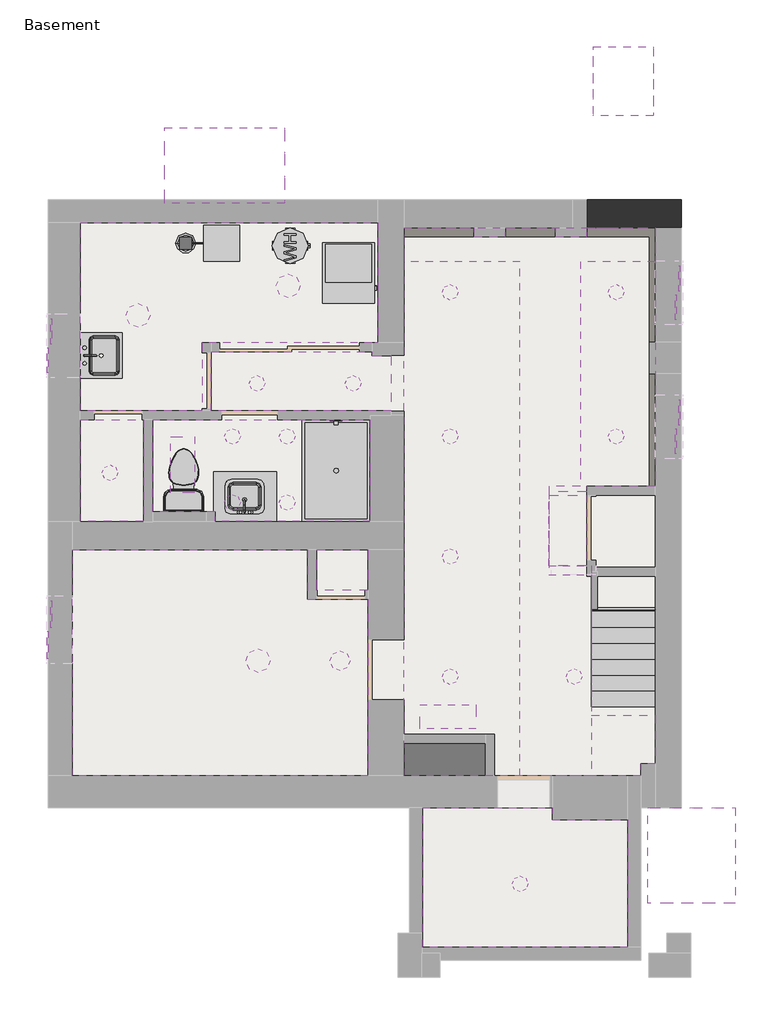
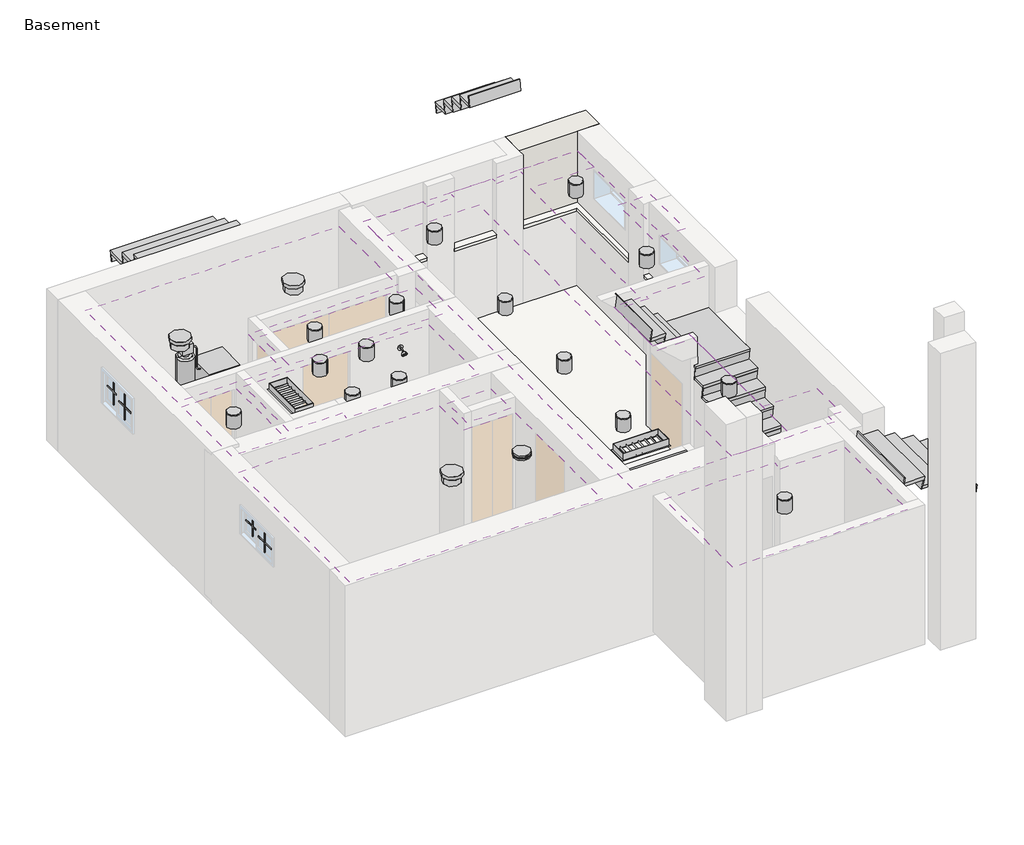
# One storey, part 2 of 2: 18 light fixtures, 16 proxies, 10 coverings, 5 flow terminals, 4 stair flights, 2 slabs, 1 wall.
"""IFC4 building model written with IfcOpenShell, lengths in millimetres."""

from ifc_helpers import new_model, si_unit, point, frame, frame_2d, origin, place, context, project, spatial, polyline, circle_curve, trimmed, segment, composite_curve, outline, extrude, faceted_brep, transform, mapped, element, save
from ifc_brep_helpers import plane_surface, revolved_surface, advanced_brep
from components import proxy_4_gpm_2e990802, air_vent_ceiling_access_hatch_parametric_14000_2x2_8_3648d0f2, fireplace_600mm_c69b326b, furnace_39496320, hot_water_heater_200_mbh_dcdfe45b, muntin_pattern_2x2_muntin_pattern_2x2_ebc4046f, muntin_pattern_2x2_muntin_pattern_2x2_335b0541, muntin_pattern_2x2_muntin_pattern_2x2_9e38aa54, smoke_detector_smoke_detector_2458_231b9623, flow_terminal_a9700879, bath_shower_basin_rectangular_bath_shower_basin_rectangular_31fc09b4, bath_basin_500_x_440mm_22030706, kitchen_single_sink_760_x_535mm_32917d62, toilet_toilet_5cb52bd4, toilet_toilet_183bbd19, light_fixture_03aafe97, light_fixture_643521e1, stair_flight_50mm_tread_25mm_nosing_13mm_riser_039d3c42, stair_flight_50mm_tread_25mm_nosing_13mm_riser_6dbba7f1, stair_flight_50mm_tread_25mm_nosing_13mm_riser_ce5ae0f6, stair_flight_50mm_tread_25mm_nosing_13mm_riser_e9a0f66c

model = new_model("IFC4")

# Units and contexts
model_context = context("Model", 3, world=origin())
ifc_project = project(units=[si_unit("LENGTHUNIT", "METRE", prefix="MILLI")], contexts=[model_context])

# Site, building, storey
site = spatial("IfcSite", under=ifc_project)
building = spatial("IfcBuilding", under=site)
storey = spatial("IfcBuildingStorey", under=building, Name="Basement", Elevation=-2336.8)

# Proxies
placement = place(None, origin())
proxy_4_gpm_shape = proxy_4_gpm_2e990802(model_context)
element("IfcBuildingElementProxy", 1, Name="Water Softener : 4 GPM", ObjectType="Water Softener : 4 GPM", at=placement, inside=storey, context=model_context, shape_type="MappedRepresentation", body=[
    mapped(proxy_4_gpm_shape, transform((-4310.3, 5837.9699783, -2336.8), x_axis=(1.0, 0.0, 0.0), y_axis=(0.0, 1.0, 0.0), z_axis=(0.0, 0.0, 1.0))),
])
air_vent_ceiling_access_hatch_parametric_14000_2x2_8_shape = air_vent_ceiling_access_hatch_parametric_14000_2x2_8_3648d0f2(model_context)
element("IfcBuildingElementProxy", 2, Name="Air Vent : Ceiling_Access_Hatch_Parametric_14000 2x2'8", ObjectType="Air Vent : Ceiling_Access_Hatch_Parametric_14000 2x2'8", at=placement, inside=storey, context=model_context, shape_type="MappedRepresentation", body=[
    mapped(air_vent_ceiling_access_hatch_parametric_14000_2x2_8_shape, transform((-4350.95, 3023.7141898, -2743.2), x_axis=(0.0, 1.0, 0.0), y_axis=(-1.0, 0.0, 0.0), z_axis=(0.0, 0.0, 1.0))),
])
element("IfcBuildingElementProxy", 3, Name="Air Vent : Ceiling_Access_Hatch_Parametric_14000 2x2'8", ObjectType="Air Vent : Ceiling_Access_Hatch_Parametric_14000 2x2'8", at=placement, inside=storey, context=model_context, shape_type="MappedRepresentation", body=[
    mapped(air_vent_ceiling_access_hatch_parametric_14000_2x2_8_shape, transform((-983.8231221, -171.45, -2743.2), x_axis=(1.0, 0.0, 0.0), y_axis=(0.0, 1.0, 0.0), z_axis=(0.0, 0.0, 1.0))),
])
element("IfcBuildingElementProxy", 4, Name="Countertop- Rectangle shape base : 1525 x 762mm", ObjectType="Countertop- Rectangle shape base : 1525 x 762mm", at=placement, inside=storey, context=model_context, shape_type="SolidModel", body=[
    extrude(outline(polyline([(-3957.25, 2286.0), (-3957.25, 2933.7), (-3157.15, 2933.7), (-3157.15, 2286.0), (-3957.25, 2286.0)]), holes=[composite_curve([segment(trimmed(circle_curve(frame_2d((-3402.45, 2753.6500001)), 88.8999999), [point((-3313.5500001, 2753.6500001))], [point((-3402.45, 2842.5499999))], True, "CARTESIAN"), True, "CONTINUOUS"), segment(polyline([(-3402.45, 2842.5499999), (-3729.1999329, 2842.5499999)]), True, "CONTINUOUS"), segment(trimmed(circle_curve(frame_2d((-3729.1999329, 2758.1999328)), 84.3500671), [point((-3729.1999329, 2842.5499999))], [point((-3813.55, 2758.1999328))], True, "CARTESIAN"), True, "CONTINUOUS"), segment(polyline([(-3813.55, 2758.1999328), (-3813.55, 2466.0499999)]), True, "CONTINUOUS"), segment(trimmed(circle_curve(frame_2d((-3750.05, 2466.0499999)), 63.5), [point((-3813.55, 2466.0499999))], [point((-3750.05, 2402.5499999))], True, "CARTESIAN"), True, "CONTINUOUS"), segment(polyline([(-3750.05, 2402.5499999), (-3377.0500001, 2402.5499999)]), True, "CONTINUOUS"), segment(trimmed(circle_curve(frame_2d((-3377.0500001, 2466.0499999)), 63.5), [point((-3377.0500001, 2402.5499999))], [point((-3313.5500001, 2466.0499999))], True, "CARTESIAN"), True, "CONTINUOUS"), segment(polyline([(-3313.5500001, 2466.0499999), (-3313.5500001, 2753.6500001)]), True, "CONTINUOUS")], self_intersect=False)]), frame((0.0, 0.0, -1460.5), z_axis=(0.0, 0.0, 1.0), x_axis=(1.0, 0.0, 0.0)), (0.0, 0.0, 1.0), 38.1),
    extrude(outline(polyline([(-3277.8, 2813.05), (-3277.8, 2406.65), (-3836.6, 2406.65), (-3836.6, 2813.05), (-3277.8, 2813.05)])), frame((0.0, 0.0, -2336.8), z_axis=(0.0, 0.0, 1.0), x_axis=(1.0, 0.0, 0.0)), (0.0, 0.0, 1.0), 101.6),
    advanced_brep(
    [(-3176.2, 2914.65, -2235.2), (-3176.2, 2305.05, -2235.2), (-3938.2, 2305.05, -2235.2), (-3938.2, 2914.65, -2235.2), (-3176.2, 2914.65, -1460.5), (-3938.2, 2914.65, -1460.5), (-3938.2, 2305.05, -1460.5), (-3176.2, 2305.05, -1460.5), (-3402.45, 2842.5499999, -1460.5), (-3313.5500001, 2753.6500001, -1460.5), (-3313.5500001, 2466.0499999, -1460.5), (-3377.0500001, 2402.5499999, -1460.5), (-3750.05, 2402.5499999, -1460.5), (-3813.55, 2466.0499999, -1460.5), (-3813.55, 2758.1999328, -1460.5), (-3729.1999329, 2842.5499999, -1460.5), (-3313.5500001, 2753.6500001, -1774.0619239), (-3402.45, 2842.5499999, -1774.0619239), (-3729.1999329, 2842.5499999, -1774.0619239), (-3813.55, 2758.1999328, -1774.0619239), (-3813.55, 2466.0499999, -1774.0619239), (-3750.05, 2402.5499999, -1774.0619239), (-3377.0500001, 2402.5499999, -1774.0619239), (-3313.5500001, 2466.0499999, -1774.0619239)],
    [
        (0, 1),
        (1, 2),
        (2, 3),
        (3, 0),
        (4, 5),
        (5, 6),
        (6, 7),
        (7, 4),
        (8, 9, circle_curve(frame((-3402.45, 2753.6500001, -1460.5), z_axis=(0.0, 0.0, -1.0), x_axis=(-1.0, 0.0, 0.0)), 88.8999999)),
        (9, 10),
        (10, 11, circle_curve(frame((-3377.0500001, 2466.0499999, -1460.5), z_axis=(0.0, 0.0, -1.0), x_axis=(-1.0, 0.0, 0.0)), 63.5)),
        (11, 12),
        (12, 13, circle_curve(frame((-3750.05, 2466.0499999, -1460.5), z_axis=(0.0, 0.0, -1.0), x_axis=(-1.0, 0.0, 0.0)), 63.5)),
        (13, 14),
        (14, 15, circle_curve(frame((-3729.1999329, 2758.1999328, -1460.5), z_axis=(0.0, 0.0, -1.0), x_axis=(-1.0, 0.0, 0.0)), 84.3500671)),
        (15, 8),
        (3, 5),
        (4, 0),
        (2, 6),
        (1, 7),
        (16, 17, circle_curve(frame((-3402.45, 2753.6500001, -1774.0619239), z_axis=(0.0, 0.0, 1.0), x_axis=(-1.0, 0.0, 0.0)), 88.8999999)),
        (17, 18),
        (18, 19, circle_curve(frame((-3729.1999329, 2758.1999328, -1774.0619239), z_axis=(0.0, 0.0, 1.0), x_axis=(-1.0, 0.0, 0.0)), 84.3500671)),
        (19, 20),
        (20, 21, circle_curve(frame((-3750.05, 2466.0499999, -1774.0619239), z_axis=(0.0, 0.0, 1.0), x_axis=(-1.0, 0.0, 0.0)), 63.5)),
        (21, 22),
        (22, 23, circle_curve(frame((-3377.0500001, 2466.0499999, -1774.0619239), z_axis=(0.0, 0.0, 1.0), x_axis=(-1.0, 0.0, 0.0)), 63.5)),
        (23, 16),
        (16, 9),
        (8, 17),
        (15, 18),
        (14, 19),
        (13, 20),
        (12, 21),
        (11, 22),
        (10, 23),
    ],
    [
        plane_surface(frame((-3938.2, 2914.65, -2235.2), z_axis=(0.0, 0.0, -1.0), x_axis=(1.0, 0.0, 0.0))),
        plane_surface(frame((-3938.2, 2914.65, -1460.5), z_axis=(0.0, 0.0, 1.0), x_axis=(-1.0, 0.0, 0.0))),
        plane_surface(frame((-3176.2, 2914.65, -1460.5), z_axis=(0.0, 1.0, 0.0), x_axis=(0.0, 0.0, -1.0))),
        plane_surface(frame((-3938.2, 2914.65, -1460.5), z_axis=(-1.0, 0.0, 0.0), x_axis=(0.0, 0.0, -1.0))),
        plane_surface(frame((-3938.2, 2305.05, -1460.5), z_axis=(0.0, -1.0, 0.0), x_axis=(0.0, 0.0, -1.0))),
        plane_surface(frame((-3176.2, 2305.05, -1460.5), z_axis=(1.0, 0.0, 0.0), x_axis=(0.0, 0.0, -1.0))),
        plane_surface(frame((-3491.3499999, 2753.6500001, -1774.0619239), z_axis=(0.0, 0.0, 1.0), x_axis=(0.0, 1.0, 0.0))),
        revolved_surface(polyline([(-3491.3499998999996, 2753.6500001, -1460.5), (-3491.3499998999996, 2753.6500001, -1774.0619239)]), (-3402.45, 2753.6500001, -1774.0619239), (0.0, 0.0, 1.0)),
        plane_surface(frame((-3402.45, 2842.5499999, -1371.6), z_axis=(0.0, -1.0, 0.0), x_axis=(0.0, 0.0, -1.0))),
        revolved_surface(polyline([(-3813.55, 2758.1999328, -1460.5), (-3813.55, 2758.1999328, -1774.0619239)]), (-3729.1999329, 2758.1999328, -1774.0619239), (0.0, 0.0, 1.0)),
        plane_surface(frame((-3813.55, 2758.1999328, -1371.6), z_axis=(1.0, 0.0, 0.0), x_axis=(0.0, 0.0, -1.0))),
        revolved_surface(polyline([(-3813.55, 2466.0499999, -1460.5), (-3813.55, 2466.0499999, -1774.0619239)]), (-3750.05, 2466.0499999, -1774.0619239), (0.0, 0.0, 1.0)),
        plane_surface(frame((-3750.05, 2402.5499999, -1371.6), z_axis=(0.0, 1.0, 0.0), x_axis=(0.0, 0.0, -1.0))),
        revolved_surface(polyline([(-3440.5500001, 2466.0499999, -1460.5), (-3440.5500001, 2466.0499999, -1774.0619239)]), (-3377.0500001, 2466.0499999, -1774.0619239), (0.0, 0.0, 1.0)),
        plane_surface(frame((-3313.5500001, 2466.0499999, -1371.6), z_axis=(-1.0, 0.0, 0.0), x_axis=(0.0, 0.0, -1.0))),
    ],
    [
        (0, [[1, 2, 3, 4]]),
        (1, [[5, 6, 7, 8], [9, 10, 11, 12, 13, 14, 15, 16]]),
        (2, [[-4, 17, -5, 18]]),
        (3, [[-3, 19, -6, -17]]),
        (4, [[-2, 20, -7, -19]]),
        (5, [[-1, -18, -8, -20]]),
        (6, [[21, 22, 23, 24, 25, 26, 27, 28]]),
        (7, [[-21, 29, -9, 30]]),
        (8, [[-22, -30, -16, 31]]),
        (9, [[-23, -31, -15, 32]]),
        (10, [[-24, -32, -14, 33]]),
        (11, [[-25, -33, -13, 34]]),
        (12, [[-26, -34, -12, 35]]),
        (13, [[-27, -35, -11, 36]]),
        (14, [[-28, -36, -10, -29]]),
    ],
),
])
fireplace_600mm_shape = fireplace_600mm_c69b326b(model_context)
element("IfcBuildingElementProxy", 5, Name="Fireplace : 600mm", ObjectType="Fireplace : 600mm", at=placement, inside=storey, context=model_context, shape_type="MappedRepresentation", body=[
    mapped(fireplace_600mm_shape, transform((-963.225, -1020.75, -2336.8), x_axis=(-1.0, 0.0, 0.0), y_axis=(0.0, -1.0, 0.0), z_axis=(0.0, 0.0, 1.0))),
])
furnace_shape = furnace_39496320(model_context)
element("IfcBuildingElementProxy", 6, Name="Furnace : 38000 BTUH", ObjectType="Furnace : 38000 BTUH", at=placement, inside=storey, context=model_context, shape_type="MappedRepresentation", body=[
    mapped(furnace_shape, transform((-1912.8684407, 5844.3199783, -2336.8), x_axis=(1.0, 0.0, 0.0), y_axis=(0.0, 1.0, 0.0), z_axis=(0.0, 0.0, 1.0))),
])
hot_water_heater_200_mbh_shape = hot_water_heater_200_mbh_dcdfe45b(model_context)
element("IfcBuildingElementProxy", 7, Name="Hot Water Heater : 200 MBH", ObjectType="Hot Water Heater : 200 MBH", at=placement, inside=storey, context=model_context, shape_type="MappedRepresentation", body=[
    mapped(hot_water_heater_200_mbh_shape, transform((-2984.9, 5803.9, -2336.8), x_axis=(0.0, 1.0, 0.0), y_axis=(-1.0, 0.0, 0.0), z_axis=(0.0, 0.0, 1.0))),
])
muntin_pattern_2x2_muntin_pattern_2x2_shape = muntin_pattern_2x2_muntin_pattern_2x2_ebc4046f(model_context)
element("IfcBuildingElementProxy", 8, Name="Muntin Pattern_2x2 : Muntin Pattern_2x2", ObjectType="Muntin Pattern_2x2 : Muntin Pattern_2x2", at=placement, inside=storey, context=model_context, shape_type="MappedRepresentation", body=[
    mapped(muntin_pattern_2x2_muntin_pattern_2x2_shape, transform((1926.025, 3323.7516898, -730.25), x_axis=(0.0, -1.0, 0.0), y_axis=(1.0, 0.0, 0.0), z_axis=(0.0, 0.0, 1.0))),
])
element("IfcBuildingElementProxy", 9, Name="Muntin Pattern_2x2 : Muntin Pattern_2x2", ObjectType="Muntin Pattern_2x2 : Muntin Pattern_2x2", at=placement, inside=storey, context=model_context, shape_type="MappedRepresentation", body=[
    mapped(muntin_pattern_2x2_muntin_pattern_2x2_shape, transform((1970.475, 3688.8766898, -730.25), x_axis=(0.0, -1.0, 0.0), y_axis=(1.0, 0.0, 0.0), z_axis=(0.0, 0.0, 1.0))),
])
element("IfcBuildingElementProxy", 10, Name="Muntin Pattern_2x2 : Muntin Pattern_2x2", ObjectType="Muntin Pattern_2x2 : Muntin Pattern_2x2", at=placement, inside=storey, context=model_context, shape_type="MappedRepresentation", body=[
    mapped(muntin_pattern_2x2_muntin_pattern_2x2_shape, transform((1926.025, 5022.1991843, -730.25), x_axis=(0.0, -1.0, 0.0), y_axis=(1.0, 0.0, 0.0), z_axis=(0.0, 0.0, 1.0))),
])
element("IfcBuildingElementProxy", 11, Name="Muntin Pattern_2x2 : Muntin Pattern_2x2", ObjectType="Muntin Pattern_2x2 : Muntin Pattern_2x2", at=placement, inside=storey, context=model_context, shape_type="MappedRepresentation", body=[
    mapped(muntin_pattern_2x2_muntin_pattern_2x2_shape, transform((1970.475, 5387.3241843, -730.25), x_axis=(0.0, -1.0, 0.0), y_axis=(1.0, 0.0, 0.0), z_axis=(0.0, 0.0, 1.0))),
])
muntin_pattern_2x2_muntin_pattern_2x2_2_shape = muntin_pattern_2x2_muntin_pattern_2x2_335b0541(model_context)
element("IfcBuildingElementProxy", 12, Name="Muntin Pattern_2x2 : Muntin Pattern_2x2", ObjectType="Muntin Pattern_2x2 : Muntin Pattern_2x2", at=placement, inside=storey, context=model_context, shape_type="MappedRepresentation", body=[
    mapped(muntin_pattern_2x2_muntin_pattern_2x2_2_shape, transform((-6005.125, 1128.7125, -730.25), x_axis=(0.0, 1.0, 0.0), y_axis=(-1.0, 0.0, 0.0), z_axis=(0.0, 0.0, 1.0))),
])
element("IfcBuildingElementProxy", 13, Name="Muntin Pattern_2x2 : Muntin Pattern_2x2", ObjectType="Muntin Pattern_2x2 : Muntin Pattern_2x2", at=placement, inside=storey, context=model_context, shape_type="MappedRepresentation", body=[
    mapped(muntin_pattern_2x2_muntin_pattern_2x2_2_shape, transform((-6049.575, 738.1875, -730.25), x_axis=(0.0, 1.0, 0.0), y_axis=(-1.0, 0.0, 0.0), z_axis=(0.0, 0.0, 1.0))),
])
muntin_pattern_2x2_muntin_pattern_2x2_3_shape = muntin_pattern_2x2_muntin_pattern_2x2_9e38aa54(model_context)
element("IfcBuildingElementProxy", 14, Name="Muntin Pattern_2x2 : Muntin Pattern_2x2", ObjectType="Muntin Pattern_2x2 : Muntin Pattern_2x2", at=placement, inside=storey, context=model_context, shape_type="MappedRepresentation", body=[
    mapped(muntin_pattern_2x2_muntin_pattern_2x2_3_shape, transform((-6005.125, 4716.4625, -831.85), x_axis=(0.0, 1.0, 0.0), y_axis=(-1.0, 0.0, 0.0), z_axis=(0.0, 0.0, 1.0))),
])
element("IfcBuildingElementProxy", 15, Name="Muntin Pattern_2x2 : Muntin Pattern_2x2", ObjectType="Muntin Pattern_2x2 : Muntin Pattern_2x2", at=placement, inside=storey, context=model_context, shape_type="MappedRepresentation", body=[
    mapped(muntin_pattern_2x2_muntin_pattern_2x2_3_shape, transform((-6049.575, 4351.3375, -831.85), x_axis=(0.0, 1.0, 0.0), y_axis=(-1.0, 0.0, 0.0), z_axis=(0.0, 0.0, 1.0))),
])
smoke_detector_smoke_detector_2458_shape = smoke_detector_smoke_detector_2458_231b9623(model_context)
element("IfcBuildingElementProxy", 16, Name="Smoke Detector : Smoke_Detector_2458", ObjectType="Smoke Detector : Smoke_Detector_2458", at=placement, inside=storey, context=model_context, shape_type="MappedRepresentation", body=[
    mapped(smoke_detector_smoke_detector_2458_shape, transform((-2350.7, 539.75, -2743.2), x_axis=(1.0, 0.0, 0.0), y_axis=(0.0, 1.0, 0.0), z_axis=(0.0, 0.0, 1.0))),
])

# Coverings
element("IfcCovering", 17, ObjectType="Bulk Head", at=placement, inside=storey, context=model_context, shape_type="SweptSolid", body=[
    extrude(outline(polyline([(-4562.1800215, -920.75), (-4562.1800215, 1949.45), (-3874.7, 1949.45), (-3874.7, 45.85), (-1995.1, 45.85), (-1995.1, -920.75), (-4562.1800215, -920.75)])), frame((0.0, 0.0, -304.8), z_axis=(0.0, 0.0, 1.0), x_axis=(1.0, 0.0, 0.0)), (0.0, 0.0, 1.0), 152.4),
    extrude(outline(polyline([(-653.4, 6032.5), (-653.4, 5918.2), (-252.0, 5918.2), (-252.0, 6032.5), (383.0, 6032.5), (383.0, 5918.2), (779.85, 5918.2), (779.85, 6032.5), (1649.8, 6032.5), (1649.8, 5600.7), (697.3, 5600.7), (697.3, 2750.6641898), (298.7314103, 2750.6641898), (298.7314103, 1627.0), (837.0, 1627.0), (837.0, -920.75), (-64.7, -920.75), (-64.7, 5600.7), (-1541.7, 5600.7), (-1541.7, 6032.5), (-653.4, 6032.5)])), frame((0.0, 0.0, -304.8), z_axis=(0.0, 0.0, 1.0), x_axis=(1.0, 0.0, 0.0)), (0.0, 0.0, 1.0), 152.4),
    extrude(outline(polyline([(-388.55, -393.7), (-1537.9, -393.7), (-1537.9, 45.85), (-388.55, 45.85), (-388.55, -393.7)]), holes=[polyline([(-647.2731221, -38.1), (-1320.3731221, -38.1), (-1320.3731221, -304.8), (-647.2731221, -304.8), (-647.2731221, -38.1)])]), frame((0.0, 0.0, -304.8), z_axis=(0.0, 0.0, 1.0), x_axis=(1.0, 0.0, 0.0)), (0.0, 0.0, 1.0), 152.4),
    extrude(outline(polyline([(-4731.95, 2425.7), (-4731.95, 3594.1), (-3938.2, 3594.1), (-3938.2, 2425.7), (-4731.95, 2425.7)])), frame((0.0, 0.0, -304.8), z_axis=(0.0, 0.0, 1.0), x_axis=(1.0, 0.0, 0.0)), (0.0, 0.0, 1.0), 152.4),
])
element("IfcCovering", 18, ObjectType="1/2\" Ceiling", at=placement, inside=storey, context=model_context, shape_type="SweptSolid", body=[
    extrude(outline(polyline([(-1703.0, 4406.9), (-1703.0, 3708.4), (-3989.0, 3708.4), (-3989.0, 4457.7), (-1948.1, 4457.7), (-1948.1, 4406.9), (-1703.0, 4406.9)]), holes=[composite_curve([segment(trimmed(circle_curve(frame_2d((-2185.6, 4057.65)), 87.3), [point((-2098.3, 4057.65))], [point((-2272.9, 4057.65))], True, "CARTESIAN"), True, "CONTINUOUS"), segment(trimmed(circle_curve(frame_2d((-2185.6, 4057.65)), 87.3), [point((-2272.9, 4057.65))], [point((-2098.3, 4057.65))], True, "CARTESIAN"), True, "CONTINUOUS")], self_intersect=False), composite_curve([segment(trimmed(circle_curve(frame_2d((-3404.8, 4057.65)), 87.3), [point((-3317.5, 4057.65))], [point((-3492.1, 4057.65))], True, "CARTESIAN"), True, "CONTINUOUS"), segment(trimmed(circle_curve(frame_2d((-3404.8, 4057.65)), 87.3), [point((-3492.1, 4057.65))], [point((-3317.5, 4057.65))], True, "CARTESIAN"), True, "CONTINUOUS")], self_intersect=False)]), frame((0.0, 0.0, -304.8), z_axis=(0.0, 0.0, 1.0), x_axis=(1.0, 0.0, 0.0)), (0.0, 0.0, 1.0), 12.7),
])
element("IfcCovering", 19, ObjectType="1/2\" Ceiling", at=placement, inside=storey, context=model_context, shape_type="SweptSolid", body=[
    extrude(outline(polyline([(-5652.7, 6096.0), (-1871.9, 6096.0), (-1871.9, 4572.0), (-1948.1, 4572.0), (-4103.3, 4572.0), (-4103.3, 3708.4), (-5652.7, 3708.4), (-5652.7, 6096.0)])), frame((0.0, 0.0, -304.8), z_axis=(0.0, 0.0, 1.0), x_axis=(1.0, 0.0, 0.0)), (0.0, 0.0, 1.0), 12.7),
])
element("IfcCovering", 20, ObjectType="1/2\" Ceiling", at=placement, inside=storey, context=model_context, shape_type="SweptSolid", body=[
    extrude(outline(polyline([(-4846.25, 2305.05), (-5652.7, 2305.05), (-5652.7, 3594.1), (-4846.25, 3594.1), (-4846.25, 2305.05)]), holes=[composite_curve([segment(trimmed(circle_curve(frame_2d((-5271.7, 2922.1141898)), 87.3), [point((-5184.4, 2922.1141898))], [point((-5359.0, 2922.1141898))], True, "CARTESIAN"), True, "CONTINUOUS"), segment(trimmed(circle_curve(frame_2d((-5271.7, 2922.1141898)), 87.3), [point((-5359.0, 2922.1141898))], [point((-5184.4, 2922.1141898))], True, "CARTESIAN"), True, "CONTINUOUS")], self_intersect=False)]), frame((0.0, 0.0, -304.8), z_axis=(0.0, 0.0, 1.0), x_axis=(1.0, 0.0, 0.0)), (0.0, 0.0, 1.0), 12.7),
])
element("IfcCovering", 21, ObjectType="1/2\" Ceiling", at=placement, inside=storey, context=model_context, shape_type="SweptSolid", body=[
    extrude(outline(polyline([(-1969.7, 3594.1), (-1969.7, 2305.05), (-3938.2, 2305.05), (-3938.2, 2425.7), (-4731.95, 2425.7), (-4731.95, 3594.1), (-1969.7, 3594.1)]), holes=[polyline([(-4484.3, 3360.2641898), (-4484.3, 2687.1641898), (-4217.6, 2687.1641898), (-4217.6, 3360.2641898), (-4484.3, 3360.2641898)]), composite_curve([segment(trimmed(circle_curve(frame_2d((-3715.95, 3384.55)), 87.3), [point((-3628.65, 3384.55))], [point((-3803.25, 3384.55))], True, "CARTESIAN"), True, "CONTINUOUS"), segment(trimmed(circle_curve(frame_2d((-3715.95, 3384.55)), 87.3), [point((-3803.25, 3384.55))], [point((-3628.65, 3384.55))], True, "CARTESIAN"), True, "CONTINUOUS")], self_intersect=False), composite_curve([segment(trimmed(circle_curve(frame_2d((-3023.8, 2546.35)), 87.3), [point((-2936.5, 2546.35))], [point((-3111.1, 2546.35))], True, "CARTESIAN"), True, "CONTINUOUS"), segment(trimmed(circle_curve(frame_2d((-3023.8, 2546.35)), 87.3), [point((-3111.1, 2546.35))], [point((-2936.5, 2546.35))], True, "CARTESIAN"), True, "CONTINUOUS")], self_intersect=False), composite_curve([segment(trimmed(circle_curve(frame_2d((-3023.8, 3384.55)), 87.3), [point((-2936.5, 3384.55))], [point((-3111.1, 3384.55))], True, "CARTESIAN"), True, "CONTINUOUS"), segment(trimmed(circle_curve(frame_2d((-3023.8, 3384.55)), 87.3), [point((-3111.1, 3384.55))], [point((-2936.5, 3384.55))], True, "CARTESIAN"), True, "CONTINUOUS")], self_intersect=False), composite_curve([segment(trimmed(circle_curve(frame_2d((-3715.95, 2546.35)), 87.3), [point((-3628.65, 2546.35))], [point((-3803.25, 2546.35))], True, "CARTESIAN"), True, "CONTINUOUS"), segment(trimmed(circle_curve(frame_2d((-3715.95, 2546.35)), 87.3), [point((-3803.25, 2546.35))], [point((-3628.65, 2546.35))], True, "CARTESIAN"), True, "CONTINUOUS")], self_intersect=False)]), frame((0.0, 0.0, -304.8), z_axis=(0.0, 0.0, 1.0), x_axis=(1.0, 0.0, 0.0)), (0.0, 0.0, 1.0), 12.7),
])
element("IfcCovering", 22, ObjectType="1/2\" Ceiling", at=placement, inside=storey, context=model_context, shape_type="SweptSolid", body=[
    extrude(outline(polyline([(-5754.3, -920.75), (-5754.3, 1949.45), (-2763.45, 1949.45), (-2763.45, 1320.8), (-1995.1, 1320.8), (-1995.1, -920.75), (-5754.3, -920.75)])), frame((0.0, 0.0, -304.8), z_axis=(0.0, 0.0, 1.0), x_axis=(1.0, 0.0, 0.0)), (0.0, 0.0, 1.0), 12.7),
])
element("IfcCovering", 23, ObjectType="1/2\" Ceiling", at=placement, inside=storey, context=model_context, shape_type="SweptSolid", body=[
    extrude(outline(polyline([(-2649.15, 1435.1), (-2649.15, 1949.45), (-1995.1, 1949.45), (-1995.1, 1435.1), (-2649.15, 1435.1)])), frame((0.0, 0.0, -304.8), z_axis=(0.0, 0.0, 1.0), x_axis=(1.0, 0.0, 0.0)), (0.0, 0.0, 1.0), 12.7),
])
element("IfcCovering", 24, ObjectType="1/2\" Ceiling", at=placement, inside=storey, context=model_context, shape_type="SweptSolid", body=[
    extrude(outline(polyline([(341.7, -1479.55), (1300.55, -1479.55), (1300.55, -3098.8), (-1302.95, -3098.8), (-1302.95, -1327.15), (341.7, -1327.15), (341.7, -1479.55)]), holes=[composite_curve([segment(trimmed(circle_curve(frame_2d((-64.7, -2292.35)), 87.3), [point((22.6, -2292.35))], [point((-152.0, -2292.35))], True, "CARTESIAN"), True, "CONTINUOUS"), segment(trimmed(circle_curve(frame_2d((-64.7, -2292.35)), 87.3), [point((-152.0, -2292.35))], [point((22.6, -2292.35))], True, "CARTESIAN"), True, "CONTINUOUS")], self_intersect=False)]), frame((0.0, 0.0, -304.8), z_axis=(0.0, 0.0, 1.0), x_axis=(1.0, 0.0, 0.0)), (0.0, 0.0, 1.0), 12.7),
])
element("IfcCovering", 25, ObjectType="1/2\" Ceiling", at=placement, inside=storey, context=model_context, shape_type="SweptSolid", body=[
    extrude(outline(polyline([(1649.8, 6032.5), (1649.8, 2750.6641898), (779.85, 2750.6641898), (779.85, 2681.1), (298.7314103, 2681.1), (298.7314103, 1741.3), (837.0, 1741.3), (837.0, -151.0), (1649.8, -151.0), (1649.8, -768.35), (1465.65, -768.35), (1465.65, -920.75), (-1537.9, -920.75), (-1537.9, 6032.5), (1649.8, 6032.5)]), holes=[composite_curve([segment(trimmed(circle_curve(frame_2d((621.1, 336.55)), 87.3), [point((708.4, 336.55))], [point((533.8, 336.55))], True, "CARTESIAN"), True, "CONTINUOUS"), segment(trimmed(circle_curve(frame_2d((621.1, 336.55)), 87.3), [point((533.8, 336.55))], [point((708.4, 336.55))], True, "CARTESIAN"), True, "CONTINUOUS")], self_intersect=False), composite_curve([segment(trimmed(circle_curve(frame_2d((-953.7, 336.55)), 87.3), [point((-866.4, 336.55))], [point((-1041.0, 336.55))], True, "CARTESIAN"), True, "CONTINUOUS"), segment(trimmed(circle_curve(frame_2d((-953.7, 336.55)), 87.3), [point((-1041.0, 336.55))], [point((-866.4, 336.55))], True, "CARTESIAN"), True, "CONTINUOUS")], self_intersect=False), composite_curve([segment(trimmed(circle_curve(frame_2d((-953.7, 1860.55)), 87.3), [point((-866.4, 1860.55))], [point((-1041.0, 1860.55))], True, "CARTESIAN"), True, "CONTINUOUS"), segment(trimmed(circle_curve(frame_2d((-953.7, 1860.55)), 87.3), [point((-1041.0, 1860.55))], [point((-866.4, 1860.55))], True, "CARTESIAN"), True, "CONTINUOUS")], self_intersect=False), composite_curve([segment(trimmed(circle_curve(frame_2d((-953.7, 3384.55)), 87.3), [point((-866.4, 3384.55))], [point((-1041.0, 3384.55))], True, "CARTESIAN"), True, "CONTINUOUS"), segment(trimmed(circle_curve(frame_2d((-953.7, 3384.55)), 87.3), [point((-1041.0, 3384.55))], [point((-866.4, 3384.55))], True, "CARTESIAN"), True, "CONTINUOUS")], self_intersect=False), composite_curve([segment(trimmed(circle_curve(frame_2d((-953.7, 5213.35)), 87.3), [point((-866.4, 5213.35))], [point((-1041.0, 5213.35))], True, "CARTESIAN"), True, "CONTINUOUS"), segment(trimmed(circle_curve(frame_2d((-953.7, 5213.35)), 87.3), [point((-1041.0, 5213.35))], [point((-866.4, 5213.35))], True, "CARTESIAN"), True, "CONTINUOUS")], self_intersect=False), composite_curve([segment(trimmed(circle_curve(frame_2d((1154.5, 3384.55)), 87.3), [point((1241.8, 3384.55))], [point((1067.2, 3384.55))], True, "CARTESIAN"), True, "CONTINUOUS"), segment(trimmed(circle_curve(frame_2d((1154.5, 3384.55)), 87.3), [point((1067.2, 3384.55))], [point((1241.8, 3384.55))], True, "CARTESIAN"), True, "CONTINUOUS")], self_intersect=False), composite_curve([segment(trimmed(circle_curve(frame_2d((1154.5, 5213.35)), 87.3), [point((1241.8, 5213.35))], [point((1067.2, 5213.35))], True, "CARTESIAN"), True, "CONTINUOUS"), segment(trimmed(circle_curve(frame_2d((1154.5, 5213.35)), 87.3), [point((1067.2, 5213.35))], [point((1241.8, 5213.35))], True, "CARTESIAN"), True, "CONTINUOUS")], self_intersect=False)]), frame((0.0, 0.0, -304.8), z_axis=(0.0, 0.0, 1.0), x_axis=(1.0, 0.0, 0.0)), (0.0, 0.0, 1.0), 12.7),
])
element("IfcCovering", 26, ObjectType="1/2\" Ceiling", at=placement, inside=storey, context=model_context, shape_type="SweptSolid", body=[
    extrude(outline(polyline([(1389.1197522, 779.85), (1846.3197522, 298.7314103), (1828.8, 298.7314103), (1371.6, 779.85), (1389.1197522, 779.85)])), frame((0.0, 1741.3, 0.0), z_axis=(0.0, 1.0, 0.0), x_axis=(0.0, 0.0, 1.0)), (0.0, 0.0, 1.0), 895.0641898),
])

# Flow terminals
flow_terminal_shape = flow_terminal_a9700879(model_context)
element("IfcFlowTerminal", 27, ObjectType="Bath-Showerhead : Shower_head_and_Control_-_UNHOSTED_17702", at=placement, inside=storey, context=model_context, shape_type="MappedRepresentation", body=[
    mapped(flow_terminal_shape, transform((-2401.5, 3594.1, -2336.8), x_axis=(1.0, 0.0, 0.0), y_axis=(0.0, 1.0, 0.0), z_axis=(0.0, 0.0, 1.0))),
])
bath_shower_basin_rectangular_bath_shower_basin_rectangular_shape = bath_shower_basin_rectangular_bath_shower_basin_rectangular_31fc09b4(model_context)
element("IfcFlowTerminal", 28, ObjectType="Bath- Shower - Basin Rectangular : Bath- Shower - Basin Rectangular", at=placement, inside=storey, context=model_context, shape_type="MappedRepresentation", body=[
    mapped(bath_shower_basin_rectangular_bath_shower_basin_rectangular_shape, transform((-2401.5, 2949.575, -2336.8), x_axis=(-1.0, 0.0, 0.0), y_axis=(0.0, -1.0, 0.0), z_axis=(0.0, 0.0, 1.0))),
])
bath_basin_500_x_440mm_shape = bath_basin_500_x_440mm_22030706(model_context)
element("IfcFlowTerminal", 29, ObjectType="Bath-Basin : 500 x 440mm", at=placement, inside=storey, context=model_context, shape_type="MappedRepresentation", body=[
    mapped(bath_basin_500_x_440mm_shape, transform((-3547.8607594, 2582.6954011, -2197.1), x_axis=(-1.0, 0.0, 0.0), y_axis=(0.0, -1.0, 0.0), z_axis=(0.0, 0.0, 1.0))),
])
kitchen_single_sink_760_x_535mm_shape = kitchen_single_sink_760_x_535mm_32917d62(model_context)
element("IfcFlowTerminal", 30, ObjectType="Kitchen-Single Sink : 760 x 535mm", at=placement, inside=storey, context=model_context, shape_type="MappedRepresentation", body=[
    mapped(kitchen_single_sink_760_x_535mm_shape, transform((-5382.8545989, 4395.1000319, -2336.8), x_axis=(0.0, 1.0, 0.0), y_axis=(-1.0, 0.0, 0.0), z_axis=(0.0, 0.0, 1.0))),
])
toilet_toilet_shape = toilet_toilet_5cb52bd4(model_context)
toilet_toilet_2_shape = toilet_toilet_183bbd19(model_context)
element("IfcFlowTerminal", 31, ObjectType="Toilet : Toilet", at=placement, inside=storey, context=model_context, shape_type="MappedRepresentation", body=[
    mapped(toilet_toilet_shape, transform((-4335.075, 2920.3960274, -2336.8), x_axis=(-1.0, 0.0, 0.0), y_axis=(0.0, -1.0, 0.0), z_axis=(0.0, 0.0, 1.0))),
    mapped(toilet_toilet_2_shape, transform((-4335.075, 2920.3960274, -2336.8), x_axis=(-1.0, 0.0, 0.0), y_axis=(0.0, -1.0, 0.0), z_axis=(0.0, 0.0, 1.0))),
])

# Light fixtures
light_fixture_shape = light_fixture_03aafe97(model_context)
element("IfcLightFixture", 32, ObjectType="Ceiling Mounted Light : 2-0\"", at=placement, inside=storey, context=model_context, shape_type="MappedRepresentation", body=[
    mapped(light_fixture_shape, transform((-3392.1, 539.75, -2743.2), x_axis=(1.0, 0.0, 0.0), y_axis=(0.0, 1.0, 0.0), z_axis=(0.0, 0.0, 1.0))),
])
element("IfcLightFixture", 33, ObjectType="Ceiling Mounted Light : 2-0\"", at=placement, inside=storey, context=model_context, shape_type="MappedRepresentation", body=[
    mapped(light_fixture_shape, transform((-4916.1, 4921.25, -2743.2), x_axis=(1.0, 0.0, 0.0), y_axis=(0.0, 1.0, 0.0), z_axis=(0.0, 0.0, 1.0))),
])
element("IfcLightFixture", 34, ObjectType="Ceiling Mounted Light : 2-0\"", at=placement, inside=storey, context=model_context, shape_type="MappedRepresentation", body=[
    mapped(light_fixture_shape, transform((-3011.1, 5295.9, -2743.2), x_axis=(1.0, 0.0, 0.0), y_axis=(0.0, 1.0, 0.0), z_axis=(0.0, 0.0, 1.0))),
])
light_fixture_2_shape = light_fixture_643521e1(model_context)
element("IfcLightFixture", 35, ObjectType="Recessed Pot Light : 8\"", at=placement, inside=storey, context=model_context, shape_type="MappedRepresentation", body=[
    mapped(light_fixture_2_shape, transform((621.1, 336.55, -2743.2), x_axis=(1.0, 0.0, 0.0), y_axis=(0.0, 1.0, 0.0), z_axis=(0.0, 0.0, 1.0))),
])
element("IfcLightFixture", 36, ObjectType="Recessed Pot Light : 8\"", at=placement, inside=storey, context=model_context, shape_type="MappedRepresentation", body=[
    mapped(light_fixture_2_shape, transform((-64.7, -2292.35, -2743.2), x_axis=(1.0, 0.0, 0.0), y_axis=(0.0, 1.0, 0.0), z_axis=(0.0, 0.0, 1.0))),
])
element("IfcLightFixture", 37, ObjectType="Recessed Pot Light : 8\"", at=placement, inside=storey, context=model_context, shape_type="MappedRepresentation", body=[
    mapped(light_fixture_2_shape, transform((-953.7, 336.55, -2743.2), x_axis=(1.0, 0.0, 0.0), y_axis=(0.0, 1.0, 0.0), z_axis=(0.0, 0.0, 1.0))),
])
element("IfcLightFixture", 38, ObjectType="Recessed Pot Light : 8\"", at=placement, inside=storey, context=model_context, shape_type="MappedRepresentation", body=[
    mapped(light_fixture_2_shape, transform((-953.7, 1860.55, -2743.2), x_axis=(1.0, 0.0, 0.0), y_axis=(0.0, 1.0, 0.0), z_axis=(0.0, 0.0, 1.0))),
])
element("IfcLightFixture", 39, ObjectType="Recessed Pot Light : 8\"", at=placement, inside=storey, context=model_context, shape_type="MappedRepresentation", body=[
    mapped(light_fixture_2_shape, transform((-953.7, 3384.55, -2743.2), x_axis=(1.0, 0.0, 0.0), y_axis=(0.0, 1.0, 0.0), z_axis=(0.0, 0.0, 1.0))),
])
element("IfcLightFixture", 40, ObjectType="Recessed Pot Light : 8\"", at=placement, inside=storey, context=model_context, shape_type="MappedRepresentation", body=[
    mapped(light_fixture_2_shape, transform((-953.7, 5213.35, -2743.2), x_axis=(1.0, 0.0, 0.0), y_axis=(0.0, 1.0, 0.0), z_axis=(0.0, 0.0, 1.0))),
])
element("IfcLightFixture", 41, ObjectType="Recessed Pot Light : 8\"", at=placement, inside=storey, context=model_context, shape_type="MappedRepresentation", body=[
    mapped(light_fixture_2_shape, transform((1154.5, 3384.55, -2743.2), x_axis=(1.0, 0.0, 0.0), y_axis=(0.0, 1.0, 0.0), z_axis=(0.0, 0.0, 1.0))),
])
element("IfcLightFixture", 42, ObjectType="Recessed Pot Light : 8\"", at=placement, inside=storey, context=model_context, shape_type="MappedRepresentation", body=[
    mapped(light_fixture_2_shape, transform((1154.5, 5213.35, -2743.2), x_axis=(1.0, 0.0, 0.0), y_axis=(0.0, 1.0, 0.0), z_axis=(0.0, 0.0, 1.0))),
])
element("IfcLightFixture", 43, ObjectType="Recessed Pot Light : 8\"", at=placement, inside=storey, context=model_context, shape_type="MappedRepresentation", body=[
    mapped(light_fixture_2_shape, transform((-2185.6, 4057.65, -2743.2), x_axis=(1.0, 0.0, 0.0), y_axis=(0.0, 1.0, 0.0), z_axis=(0.0, 0.0, 1.0))),
])
element("IfcLightFixture", 44, ObjectType="Recessed Pot Light : 8\"", at=placement, inside=storey, context=model_context, shape_type="MappedRepresentation", body=[
    mapped(light_fixture_2_shape, transform((-3404.8, 4057.65, -2743.2), x_axis=(1.0, 0.0, 0.0), y_axis=(0.0, 1.0, 0.0), z_axis=(0.0, 0.0, 1.0))),
])
element("IfcLightFixture", 45, ObjectType="Recessed Pot Light : 8\"", at=placement, inside=storey, context=model_context, shape_type="MappedRepresentation", body=[
    mapped(light_fixture_2_shape, transform((-3715.95, 3384.55, -2743.2), x_axis=(1.0, 0.0, 0.0), y_axis=(0.0, 1.0, 0.0), z_axis=(0.0, 0.0, 1.0))),
])
element("IfcLightFixture", 46, ObjectType="Recessed Pot Light : 8\"", at=placement, inside=storey, context=model_context, shape_type="MappedRepresentation", body=[
    mapped(light_fixture_2_shape, transform((-3023.8, 2546.35, -2743.2), x_axis=(1.0, 0.0, 0.0), y_axis=(0.0, 1.0, 0.0), z_axis=(0.0, 0.0, 1.0))),
])
element("IfcLightFixture", 47, ObjectType="Recessed Pot Light : 8\"", at=placement, inside=storey, context=model_context, shape_type="MappedRepresentation", body=[
    mapped(light_fixture_2_shape, transform((-3023.8, 3384.55, -2743.2), x_axis=(1.0, 0.0, 0.0), y_axis=(0.0, 1.0, 0.0), z_axis=(0.0, 0.0, 1.0))),
])
element("IfcLightFixture", 48, ObjectType="Recessed Pot Light : 8\"", at=placement, inside=storey, context=model_context, shape_type="MappedRepresentation", body=[
    mapped(light_fixture_2_shape, transform((-3715.95, 2546.35, -2743.2), x_axis=(1.0, 0.0, 0.0), y_axis=(0.0, 1.0, 0.0), z_axis=(0.0, 0.0, 1.0))),
])
element("IfcLightFixture", 49, ObjectType="Recessed Pot Light : 8\"", at=placement, inside=storey, context=model_context, shape_type="MappedRepresentation", body=[
    mapped(light_fixture_2_shape, transform((-5271.7, 2922.1141898, -2743.2), x_axis=(1.0, 0.0, 0.0), y_axis=(0.0, 1.0, 0.0), z_axis=(0.0, 0.0, 1.0))),
])

# Slabs
element("IfcSlab", 50, ObjectType="Ledge - 2\"", at=placement, inside=storey, context=model_context, shape_type="SweptSolid", body=[
    extrude(outline(polyline([(-1871.9, 6096.0), (-1541.7, 6096.0), (-1541.7, 6032.5), (-653.4, 6032.5), (-653.4, 5918.2), (-252.0, 5918.2), (-252.0, 6032.5), (383.0, 6032.5), (383.0, 5918.2), (779.85, 5918.2), (779.85, 6032.5), (1649.8, 6032.5), (1649.8, 4577.0), (1573.6, 4577.0), (1573.6, 4179.7), (1649.8, 4179.7), (1649.8, -768.35), (1465.65, -768.35), (1465.65, -920.75), (1300.55, -920.75), (1300.55, -3098.8), (-1302.95, -3098.8), (-1302.95, -920.75), (-5754.3, -920.75), (-5754.3, 1949.45), (-5652.7, 1949.45), (-5652.7, 6096.0), (-1871.9, 6096.0)])), frame((0.0, 0.0, -2387.6), z_axis=(0.0, 0.0, 1.0), x_axis=(1.0, 0.0, 0.0)), (0.0, 0.0, 1.0), 50.8),
])
element("IfcSlab", 51, ObjectType="Ledge - 2\"", at=placement, inside=storey, context=model_context, shape_type="SweptSolid", body=[
    extrude(outline(polyline([(-1541.7, 5918.2), (-1541.7, 6032.5), (-653.4, 6032.5), (-653.4, 5918.2), (-1541.7, 5918.2)])), frame((0.0, 0.0, -1168.4), z_axis=(0.0, 0.0, 1.0), x_axis=(1.0, 0.0, 0.0)), (0.0, 0.0, 1.0), 50.8),
    extrude(outline(polyline([(383.0, 5918.2), (-252.0, 5918.2), (-252.0, 6032.5), (383.0, 6032.5), (383.0, 5918.2)])), frame((0.0, 0.0, -1168.4), z_axis=(0.0, 0.0, 1.0), x_axis=(1.0, 0.0, 0.0)), (0.0, 0.0, 1.0), 50.8),
    extrude(outline(polyline([(1573.6, 5918.2), (779.85, 5918.2), (779.85, 6032.5), (1649.8, 6032.5), (1649.8, 4577.0), (1573.6, 4577.0), (1573.6, 5918.2)])), frame((0.0, 0.0, -1168.4), z_axis=(0.0, 0.0, 1.0), x_axis=(1.0, 0.0, 0.0)), (0.0, 0.0, 1.0), 50.8),
    extrude(outline(polyline([(1573.6, 4179.7), (1649.8, 4179.7), (1649.8, 2750.6641898), (1573.6, 2750.6641898), (1573.6, 4179.7)])), frame((0.0, 0.0, -1168.4), z_axis=(0.0, 0.0, 1.0), x_axis=(1.0, 0.0, 0.0)), (0.0, 0.0, 1.0), 50.8),
])

# Stair flights
stair_flight_50mm_tread_25mm_nosing_13mm_riser_shape = stair_flight_50mm_tread_25mm_nosing_13mm_riser_039d3c42(model_context)
element("IfcStairFlight", 52, ObjectType="50mm Tread 25mm Nosing 13mm Riser", at=placement, inside=storey, context=model_context, shape_type="MappedRepresentation", body=[
    mapped(stair_flight_50mm_tread_25mm_nosing_13mm_riser_shape, transform((0.0, 0.0, 0.0), x_axis=(1.0, 0.0, 0.0), y_axis=(0.0, 1.0, 0.0), z_axis=(0.0, 0.0, 1.0))),
])
stair_flight_50mm_tread_25mm_nosing_13mm_riser_2_shape = stair_flight_50mm_tread_25mm_nosing_13mm_riser_6dbba7f1(model_context)
element("IfcStairFlight", 53, ObjectType="50mm Tread 25mm Nosing 13mm Riser", at=placement, inside=storey, context=model_context, shape_type="MappedRepresentation", body=[
    mapped(stair_flight_50mm_tread_25mm_nosing_13mm_riser_2_shape, transform((0.0, 0.0, 0.0), x_axis=(1.0, 0.0, 0.0), y_axis=(0.0, 1.0, 0.0), z_axis=(0.0, 0.0, 1.0))),
])
stair_flight_50mm_tread_25mm_nosing_13mm_riser_3_shape = stair_flight_50mm_tread_25mm_nosing_13mm_riser_ce5ae0f6(model_context)
element("IfcStairFlight", 54, ObjectType="50mm Tread 25mm Nosing 13mm Riser", at=placement, inside=storey, context=model_context, shape_type="MappedRepresentation", body=[
    mapped(stair_flight_50mm_tread_25mm_nosing_13mm_riser_3_shape, transform((0.0, 0.0, 0.0), x_axis=(1.0, 0.0, 0.0), y_axis=(0.0, 1.0, 0.0), z_axis=(0.0, 0.0, 1.0))),
])
stair_flight_50mm_tread_25mm_nosing_13mm_riser_4_shape = stair_flight_50mm_tread_25mm_nosing_13mm_riser_e9a0f66c(model_context)
element("IfcStairFlight", 55, ObjectType="50mm Tread 25mm Nosing 13mm Riser", at=placement, inside=storey, context=model_context, shape_type="MappedRepresentation", body=[
    mapped(stair_flight_50mm_tread_25mm_nosing_13mm_riser_4_shape, transform((0.0, 0.0, 0.0), x_axis=(1.0, 0.0, 0.0), y_axis=(0.0, 1.0, 0.0), z_axis=(0.0, 0.0, 1.0))),
])

# Wall
element("IfcWall", 56, ObjectType="Planitar - Generic 1' - 2\"", at=placement, inside=storey, context=model_context, shape_type="Brep", body=[
    faceted_brep([(779.85, 6032.5, 0.0), (779.85, 6032.5, -2387.6), (1649.8, 6032.5, -2387.6), (1980.0, 6032.5, -2387.6), (1980.0, 6032.5, 0.0), (1649.8, 6032.5, 0.0), (779.85, 6388.1, -2387.6), (779.85, 6388.1, 0.0), (862.4, 6388.1, 0.0), (1814.9, 6388.1, 0.0), (1980.0, 6388.1, 0.0), (1980.0, 6388.1, -812.8), (1980.0, 6388.1, -863.6), (1980.0, 6388.1, -2387.6), (1980.0, 6223.0, 0.0)], [[[0, 1, 2, 3, 4, 5]], [[6, 7, 8, 9, 10, 11, 12, 13]], [[3, 2, 1, 6, 13]], [[0, 5, 4, 14, 10, 9, 8, 7]], [[0, 7, 6, 1]], [[3, 13, 12, 11, 10, 14, 4]]]),
])

save(model, "model.ifc")
